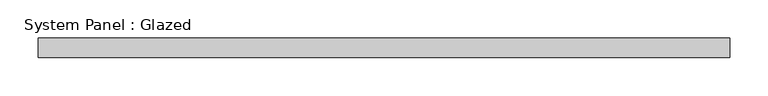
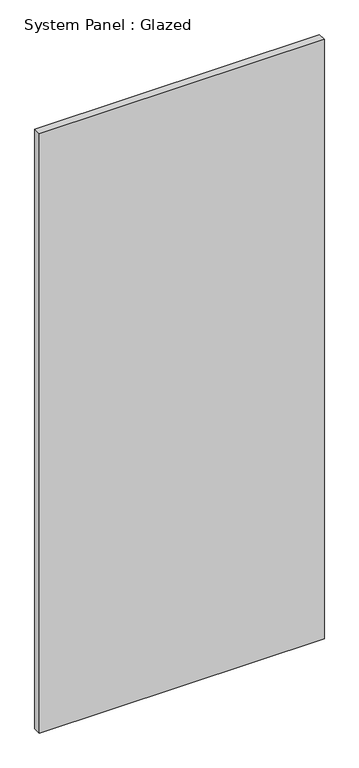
"""IFC4 building model written with IfcOpenShell, lengths in millimetres: plate geometry, System Panel : Glazed."""

from ifc_helpers import new_model, si_unit, origin, origin_with_axes, place, context, project, spatial, polyline, outline, extrude, source, transform, mapped, element, save


def system_panel_glazed_d6775a2a(model_context):
    return source(origin(), model_context, "Body", "SweptSolid", [
        extrude(outline(polyline([(450.0, -49.5), (-450.0, -49.5), (-450.0, -24.5), (450.0, -24.5), (450.0, -49.5)])), origin_with_axes(), (0.0, 0.0, 1.0), 2000.0),
    ])


if __name__ == "__main__":
    model = new_model("IFC4")
    model_context = context("Model", 3, world=origin())
    ifc_project = project(units=[si_unit("LENGTHUNIT", "METRE", prefix="MILLI")], contexts=[model_context])
    site = spatial("IfcSite", under=ifc_project)
    building = spatial("IfcBuilding", under=site)
    placement = place(None, origin())
    system_panel_glazed_shape = system_panel_glazed_d6775a2a(model_context)
    element("IfcPlate", 1, ObjectType="System Panel : Glazed", at=placement, inside=building, context=model_context, shape_type="MappedRepresentation", body=[
        mapped(system_panel_glazed_shape, transform((0.0, 0.0, 0.0), x_axis=(1.0, 0.0, 0.0), y_axis=(0.0, 1.0, 0.0), z_axis=(0.0, 0.0, 1.0))),
    ])
    save(model, "model.ifc")
